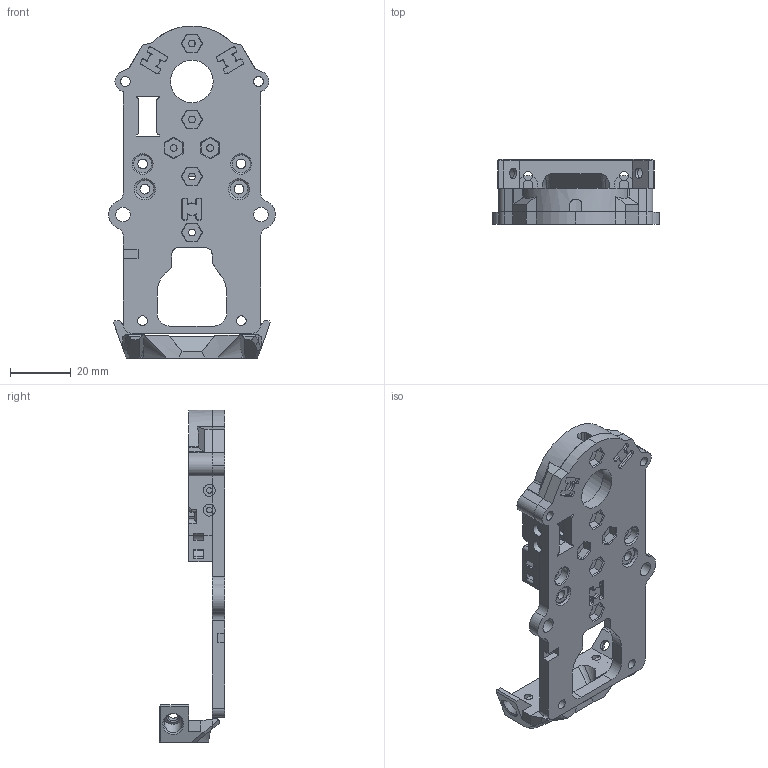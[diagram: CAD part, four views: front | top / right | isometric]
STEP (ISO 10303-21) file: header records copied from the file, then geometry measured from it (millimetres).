
FILE_DESCRIPTION(('HOOPS Exchange Step'),'2;1');
FILE_NAME('/Users/rileymahr/Library/Containers/com.shapr3d.shapr/Data/tmp/export/temp_export','2026-11-12T11:35:07-06:00',('rileymahr'),('Shapr3D Limited'),'HOOPS Exchange 2025.7','Shapr3D','Authorized');
FILE_SCHEMA( ('AP242_MANAGED_MODEL_BASED_3D_ENGINEERING_MIM_LF {1 0 10303 442 1 1 4}') );
Length unit declared in the file: millimetre
Products named in the file (3): LW Carriage; SB Mount; root
Assembly tree (2 placements, depth 3):
  root
    SB Mount
      LW Carriage
Bounding box: 54.92 x 21.43 x 109.27 mm (x, y, z)
Volume: 30426.5 mm3; surface area: 19500.1 mm2
Topology: 5 solids, 6 shells, 539 faces, 1457 edges, 939 vertices
Faces by surface type: plane 336, cylinder 144, cone 43, bspline 14, torus 2
Full cylindrical faces by diameter (mm): 2.2 x6, 2.9 x2, 3.2 x14, 3.4 x2, 4.7 x2, 4.8 x2, 5.8 x2, 6 x4, 6.4 x2, 14 x1, 18 x1
Entity records: 17818 total; most frequent: CARTESIAN_POINT 3828, ORIENTED_EDGE 2914, DIRECTION 2860, EDGE_CURVE 1457, VECTOR 992, LINE 992, VERTEX_POINT 939, AXIS2_PLACEMENT_3D 934
